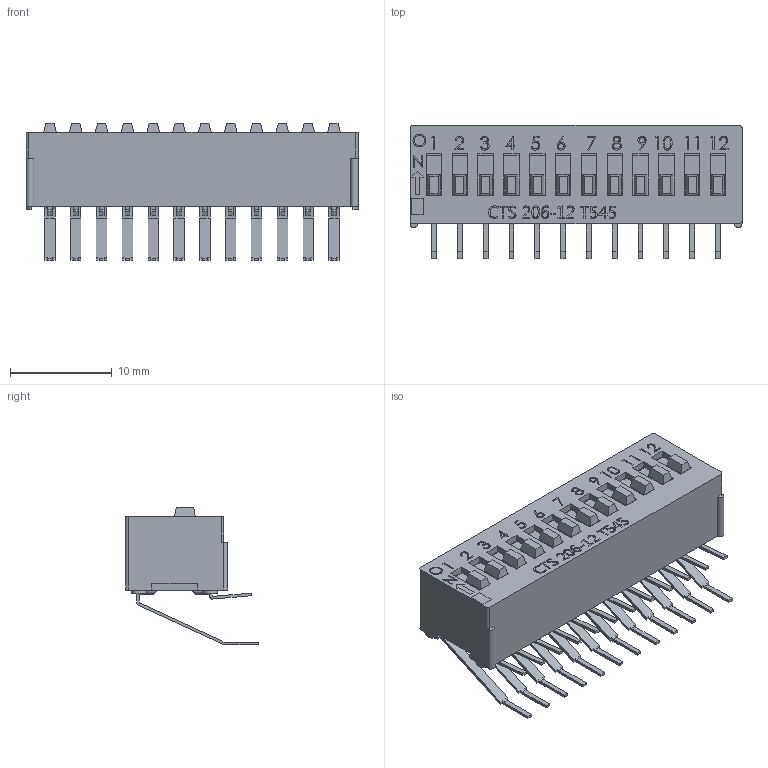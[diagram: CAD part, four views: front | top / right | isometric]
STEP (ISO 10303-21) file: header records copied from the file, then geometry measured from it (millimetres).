
FILE_DESCRIPTION (( 'STEP AP214' ), '1' );
FILE_NAME ('206-12RA.STEP', '2019-05-24T07:01:56', ( '' ), ( '' ), 'SwSTEP 2.0', 'SolidWorks 2019', '' );
FILE_SCHEMA (( 'AUTOMOTIVE_DESIGN' ));
Length unit declared in the file: millimetre
Products named in the file (4): 206-56-014-35-01; 206-40-24A-40-01(SPST-RA); 206-12RA; 206012RAS- Base assly
Assembly tree (14 placements, depth 2):
  206-12RA
    206-40-24A-40-01(SPST-RA)
    206-56-014-35-01  x12
    206012RAS- Base assly
Bounding box: 32.66 x 13.08 x 13.5 mm (x, y, z)
Volume: 1413.8 mm3; surface area: 4538.6 mm2
Topology: 14 solids, 14 shells, 1232 faces, 3316 edges, 2190 vertices
Faces by surface type: plane 916, cylinder 160, bspline 156
Entity records: 34780 total; most frequent: CARTESIAN_POINT 14420, ORIENTED_EDGE 4410, DIRECTION 3389, EDGE_CURVE 2205, LINE 1739, VECTOR 1739, VERTEX_POINT 1464, EDGE_LOOP 907
